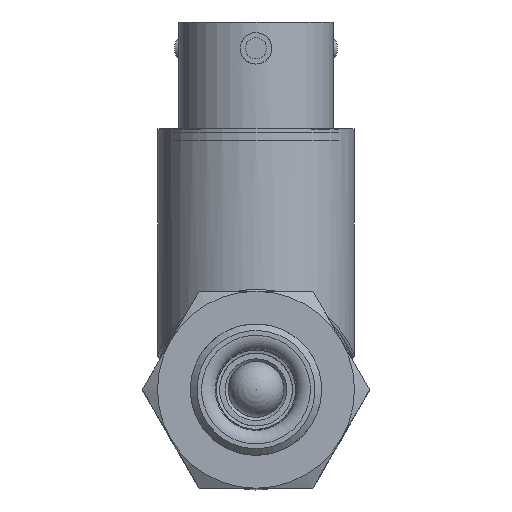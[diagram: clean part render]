
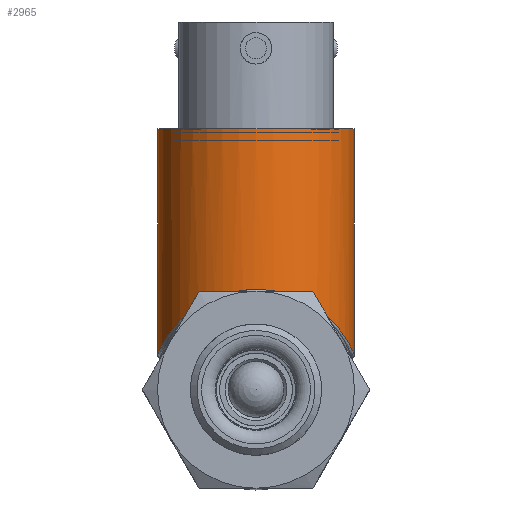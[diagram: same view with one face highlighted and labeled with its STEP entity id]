
A CAD part, top view. The second image highlights one B-rep face of the part: STEP entity #2965.
In plain terms, the highlighted cylindrical face has radius 9.525 mm (diameter 19.05 mm), a full revolution.
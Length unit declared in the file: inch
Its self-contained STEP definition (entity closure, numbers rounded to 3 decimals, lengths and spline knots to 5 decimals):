
#70=B_SPLINE_CURVE_WITH_KNOTS('',3,(#6643,#6644,#6645,#6646,#6647,#6648,
#6649,#6650,#6651,#6652,#6653,#6654,#6655,#6656,#6657,#6658,#6659,#6660,
#6661,#6662,#6663,#6664,#6665,#6666,#6667,#6668,#6669,#6670,#6671,#6672,
#6673),.UNSPECIFIED.,.F.,.F.,(4,1,1,1,1,1,1,1,1,1,1,1,1,1,1,1,1,1,1,1,1,
1,1,1,1,1,1,1,4),(-9.63701,-9.40756,-9.17811,
-8.7192,-8.41326,-8.26029,-8.10733,
-8.03084,-7.95436,-7.80139,-7.49545,
-7.18952,-6.88358,-6.57764,-6.27171,
-5.96577,-5.65983,-5.35389,-5.04796,-4.89499,
-4.81851,-4.74202,-4.58905,-4.43608,
-4.3596,-4.13015,-3.67124,-3.44179,
-3.21234),.UNSPECIFIED.);
#337=FACE_OUTER_BOUND('',#557,.T.);
#557=EDGE_LOOP('',(#2078,#2079,#2080,#2081));
#769=LINE('',#6723,#905);
#905=VECTOR('',#3934,0.375);
#1080=CIRCLE('',#3384,0.375);
#1288=VERTEX_POINT('',#6609);
#1292=VERTEX_POINT('',#6722);
#1580=EDGE_CURVE('',#1288,#1288,#70,.T.);
#1583=EDGE_CURVE('',#1292,#1288,#769,.T.);
#1584=EDGE_CURVE('',#1292,#1292,#1080,.T.);
#2078=ORIENTED_EDGE('',*,*,#1583,.F.);
#2079=ORIENTED_EDGE('',*,*,#1584,.F.);
#2080=ORIENTED_EDGE('',*,*,#1583,.T.);
#2081=ORIENTED_EDGE('',*,*,#1580,.F.);
#2663=CYLINDRICAL_SURFACE('',#3383,0.375);
#2965=ADVANCED_FACE('',(#337),#2663,.T.);
#3383=AXIS2_PLACEMENT_3D('',#6721,#3932,#3933);
#3384=AXIS2_PLACEMENT_3D('',#6724,#3935,#3936);
#3932=DIRECTION('center_axis',(0.,1.,0.));
#3933=DIRECTION('ref_axis',(0.,0.,1.));
#3934=DIRECTION('',(0.,-1.,0.));
#3935=DIRECTION('center_axis',(0.,1.,0.));
#3936=DIRECTION('ref_axis',(0.,0.,1.));
#6609=CARTESIAN_POINT('',(0.,0.3875,-1.2));
#6643=CARTESIAN_POINT('Ctrl Pts',(0.,0.3875,
-1.2));
#6644=CARTESIAN_POINT('Ctrl Pts',(0.03115,0.3875,
-1.2));
#6645=CARTESIAN_POINT('Ctrl Pts',(0.09334,0.38037,
-1.19214));
#6646=CARTESIAN_POINT('Ctrl Pts',(0.20461,0.34111,-1.14842));
#6647=CARTESIAN_POINT('Ctrl Pts',(0.29321,0.27238,-1.07028));
#6648=CARTESIAN_POINT('Ctrl Pts',(0.3437,0.20218,-0.98172));
#6649=CARTESIAN_POINT('Ctrl Pts',(0.36561,0.15994,-0.91434));
#6650=CARTESIAN_POINT('Ctrl Pts',(0.37367,0.14038,-0.86654));
#6651=CARTESIAN_POINT('Ctrl Pts',(0.37544,0.13579,-0.825));
#6652=CARTESIAN_POINT('Ctrl Pts',(0.37368,0.14033,-0.78338));
#6653=CARTESIAN_POINT('Ctrl Pts',(0.36229,0.16812,-0.71673));
#6654=CARTESIAN_POINT('Ctrl Pts',(0.32972,0.22602,-0.63722));
#6655=CARTESIAN_POINT('Ctrl Pts',(0.26718,0.29408,-0.55479));
#6656=CARTESIAN_POINT('Ctrl Pts',(0.17866,0.35267,-0.4887));
#6657=CARTESIAN_POINT('Ctrl Pts',(0.06404,0.38892,
-0.44839));
#6658=CARTESIAN_POINT('Ctrl Pts',(-0.06403,0.38897,
-0.44835));
#6659=CARTESIAN_POINT('Ctrl Pts',(-0.1787,0.35264,
-0.48871));
#6660=CARTESIAN_POINT('Ctrl Pts',(-0.26715,0.29415,
-0.55479));
#6661=CARTESIAN_POINT('Ctrl Pts',(-0.32975,0.22598,
-0.63725));
#6662=CARTESIAN_POINT('Ctrl Pts',(-0.36229,0.1681,
-0.71673));
#6663=CARTESIAN_POINT('Ctrl Pts',(-0.37368,0.14034,
-0.78342));
#6664=CARTESIAN_POINT('Ctrl Pts',(-0.37544,0.1358,
-0.82503));
#6665=CARTESIAN_POINT('Ctrl Pts',(-0.37367,0.14038,
-0.86657));
#6666=CARTESIAN_POINT('Ctrl Pts',(-0.36558,0.15999,
-0.91435));
#6667=CARTESIAN_POINT('Ctrl Pts',(-0.35196,0.18625,
-0.95644));
#6668=CARTESIAN_POINT('Ctrl Pts',(-0.33101,0.21986,
-1.00392));
#6669=CARTESIAN_POINT('Ctrl Pts',(-0.28645,0.27754,
-1.07622));
#6670=CARTESIAN_POINT('Ctrl Pts',(-0.20458,0.34119,
-1.14847));
#6671=CARTESIAN_POINT('Ctrl Pts',(-0.09335,0.38033,
-1.1921));
#6672=CARTESIAN_POINT('Ctrl Pts',(-0.03115,0.3875,
-1.2));
#6673=CARTESIAN_POINT('Ctrl Pts',(0.,0.3875,
-1.2));
#6721=CARTESIAN_POINT('Origin',(0.,0.47,
-0.825));
#6722=CARTESIAN_POINT('',(0.,1.,-1.2));
#6723=CARTESIAN_POINT('',(0.,0.47,-1.2));
#6724=CARTESIAN_POINT('Origin',(0.,1.,
-0.825));
